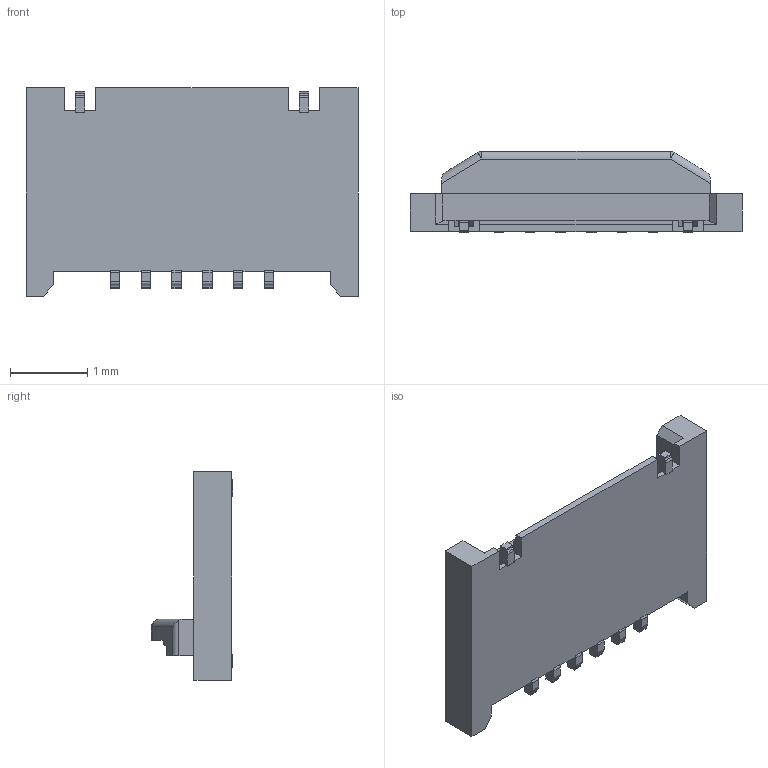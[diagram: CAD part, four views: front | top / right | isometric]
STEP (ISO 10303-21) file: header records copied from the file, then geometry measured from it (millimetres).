
FILE_DESCRIPTION (( 'STEP AP203' ), '1' );
FILE_NAME ('20588-006E-01 ACT OPEN ASSY STEP R4 ALL.STEP', '2014-10-31T05:40:51', ( '' ), ( '' ), 'SwSTEP 2.0', 'SolidWorks 2012', '' );
FILE_SCHEMA (( 'CONFIG_CONTROL_DESIGN' ));
Length unit declared in the file: millimetre
Products named in the file (1): 20588-006E-01 ACT OPEN ASSY STEP R4 ALL
Bounding box: 4.3 x 1.05 x 2.7 mm (x, y, z)
Volume: 5.3 mm3; surface area: 32.5 mm2
Topology: 1 solids, 1 shells, 150 faces, 452 edges, 298 vertices
Faces by surface type: plane 115, cylinder 33, sphere 2
Entity records: 5093 total; most frequent: CARTESIAN_POINT 911, ORIENTED_EDGE 900, DIRECTION 810, EDGE_CURVE 450, VECTOR 384, LINE 384, VERTEX_POINT 298, AXIS2_PLACEMENT_3D 213
